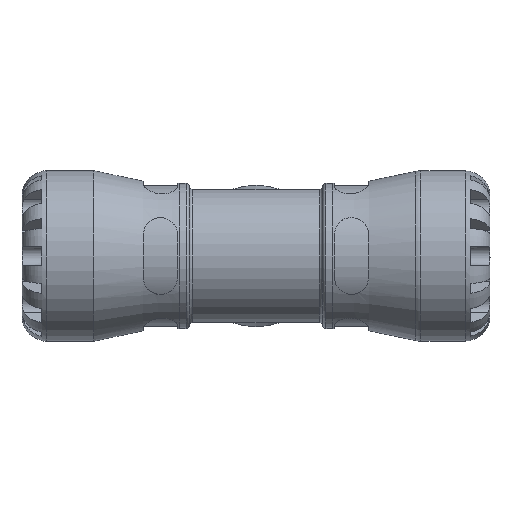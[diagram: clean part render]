
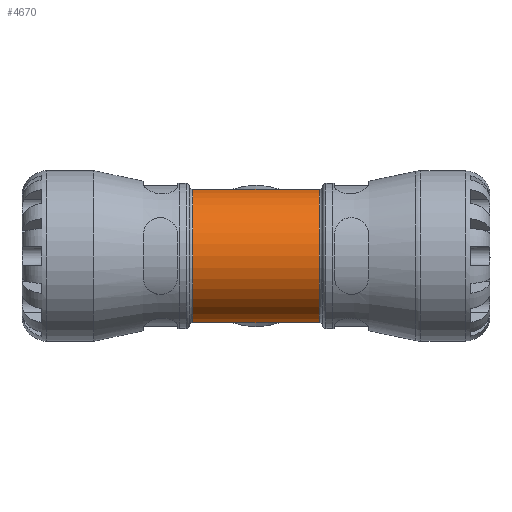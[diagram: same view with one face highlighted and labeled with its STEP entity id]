
A CAD part, front view. The second image highlights one B-rep face of the part: STEP entity #4670.
In plain terms, the highlighted cylindrical face has radius 27.3 mm (diameter 54.6 mm), a full revolution.
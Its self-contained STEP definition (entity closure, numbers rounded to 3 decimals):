
#684=FACE_BOUND('',#1119,.T.);
#685=FACE_BOUND('',#1120,.T.);
#732=CYLINDRICAL_SURFACE('',#4960,27.3);
#830=FACE_OUTER_BOUND('',#1118,.T.);
#1118=EDGE_LOOP('',(#3021));
#1119=EDGE_LOOP('',(#3022));
#1120=EDGE_LOOP('',(#3023));
#1451=B_SPLINE_CURVE_WITH_KNOTS('',3,(#6970,#6971,#6972,#6973,#6974,#6975,
#6976,#6977,#6978,#6979,#6980,#6981,#6982,#6983,#6984,#6985,#6986,#6987,
#6988,#6989,#6990,#6991,#6992,#6993,#6994,#6995,#6996,#6997),
 .UNSPECIFIED.,.T.,.F.,(4,1,1,1,1,1,1,1,1,1,1,1,1,1,1,1,1,1,1,1,1,1,1,1,
1,4),(-14.744,-14.217,-13.691,-12.638,
-11.935,-11.233,-10.531,-9.829,
-9.127,-8.425,-8.074,-7.723,
-7.372,-7.021,-6.67,-6.319,
-5.617,-4.915,-4.213,-3.686,
-3.159,-2.633,-2.106,-1.053,
-0.527,0.),.UNSPECIFIED.);
#1647=CIRCLE('',#4961,27.3);
#1648=CIRCLE('',#4962,27.3);
#1892=VERTEX_POINT('',#6939);
#1895=VERTEX_POINT('',#7002);
#1896=VERTEX_POINT('',#7004);
#2335=EDGE_CURVE('',#1892,#1892,#1451,.T.);
#2337=EDGE_CURVE('',#1895,#1895,#1647,.T.);
#2338=EDGE_CURVE('',#1896,#1896,#1648,.T.);
#3021=ORIENTED_EDGE('',*,*,#2337,.F.);
#3022=ORIENTED_EDGE('',*,*,#2338,.F.);
#3023=ORIENTED_EDGE('',*,*,#2335,.F.);
#4670=ADVANCED_FACE('',(#830,#684,#685),#732,.T.);
#4960=AXIS2_PLACEMENT_3D('',#7001,#5498,#5499);
#4961=AXIS2_PLACEMENT_3D('',#7003,#5500,#5501);
#4962=AXIS2_PLACEMENT_3D('',#7005,#5502,#5503);
#5498=DIRECTION('center_axis',(1.,0.,0.));
#5499=DIRECTION('ref_axis',(0.,1.,0.));
#5500=DIRECTION('center_axis',(-1.,0.,0.));
#5501=DIRECTION('ref_axis',(0.,1.,0.));
#5502=DIRECTION('center_axis',(1.,0.,0.));
#5503=DIRECTION('ref_axis',(0.,1.,0.));
#6939=CARTESIAN_POINT('',(0.,15.11,22.737));
#6970=CARTESIAN_POINT('Ctrl Pts',(0.,15.108,22.738));
#6971=CARTESIAN_POINT('Ctrl Pts',(1.858,15.108,22.738));
#6972=CARTESIAN_POINT('Ctrl Pts',(5.573,15.812,22.286));
#6973=CARTESIAN_POINT('Ctrl Pts',(11.967,18.834,19.971));
#6974=CARTESIAN_POINT('Ctrl Pts',(17.592,22.793,15.663));
#6975=CARTESIAN_POINT('Ctrl Pts',(21.849,26.1,8.923));
#6976=CARTESIAN_POINT('Ctrl Pts',(23.651,27.573,1.873));
#6977=CARTESIAN_POINT('Ctrl Pts',(23.028,27.059,-5.52));
#6978=CARTESIAN_POINT('Ctrl Pts',(20.211,24.802,-11.992));
#6979=CARTESIAN_POINT('Ctrl Pts',(15.893,21.565,-17.045));
#6980=CARTESIAN_POINT('Ctrl Pts',(11.366,18.616,-20.058));
#6981=CARTESIAN_POINT('Ctrl Pts',(7.18,16.568,-21.72));
#6982=CARTESIAN_POINT('Ctrl Pts',(3.725,15.414,-22.539));
#6983=CARTESIAN_POINT('Ctrl Pts',(0.001,14.957,
-22.836));
#6984=CARTESIAN_POINT('Ctrl Pts',(-3.724,15.414,-22.539));
#6985=CARTESIAN_POINT('Ctrl Pts',(-7.178,16.567,-21.721));
#6986=CARTESIAN_POINT('Ctrl Pts',(-11.366,18.615,-20.059));
#6987=CARTESIAN_POINT('Ctrl Pts',(-15.89,21.563,-17.045));
#6988=CARTESIAN_POINT('Ctrl Pts',(-20.213,24.803,-11.994));
#6989=CARTESIAN_POINT('Ctrl Pts',(-22.789,26.868,-6.059));
#6990=CARTESIAN_POINT('Ctrl Pts',(-23.548,27.485,0.001));
#6991=CARTESIAN_POINT('Ctrl Pts',(-22.865,26.931,5.448));
#6992=CARTESIAN_POINT('Ctrl Pts',(-20.963,25.402,10.399));
#6993=CARTESIAN_POINT('Ctrl Pts',(-17.161,22.493,15.992));
#6994=CARTESIAN_POINT('Ctrl Pts',(-11.968,18.833,19.971));
#6995=CARTESIAN_POINT('Ctrl Pts',(-5.573,15.813,22.286));
#6996=CARTESIAN_POINT('Ctrl Pts',(-1.858,15.108,22.738));
#6997=CARTESIAN_POINT('Ctrl Pts',(0.,15.108,
22.738));
#7001=CARTESIAN_POINT('Origin',(13.65,0.,0.));
#7002=CARTESIAN_POINT('',(-25.922,-27.3,0.));
#7003=CARTESIAN_POINT('Origin',(-25.922,0.,0.));
#7004=CARTESIAN_POINT('',(25.922,-27.3,0.));
#7005=CARTESIAN_POINT('Origin',(25.922,0.,0.));
